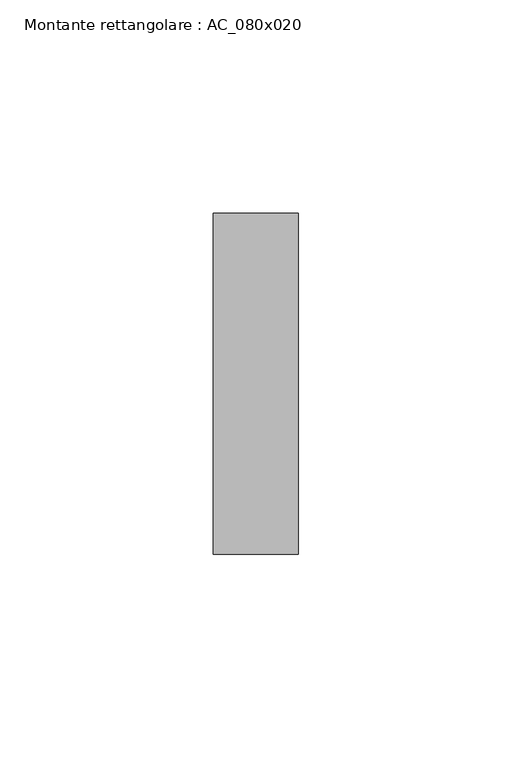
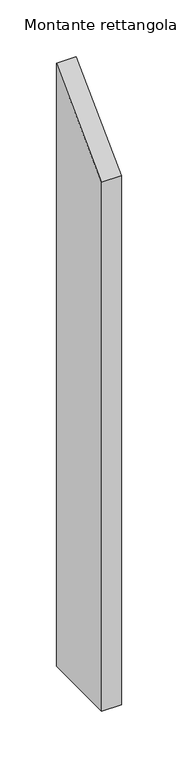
"""IFC4 building model written with IfcOpenShell, lengths in millimetres: member geometry, Montante rettangolare : AC_080x020."""

from ifc_helpers import new_model, si_unit, frame, origin, place, context, project, spatial, polyline, outline, extrude, source, transform, mapped, element, save


def montante_rettangolare_ac_080x020_015a60fd(model_context):
    return source(origin(), model_context, "Body", "SweptSolid", [
        extrude(outline(polyline([(-40.0, -40.0), (40.0, 40.0), (40.0, -610.0), (-40.0, -610.0), (-40.0, -40.0)])), frame((-20.0, 0.0, 0.0), z_axis=(1.0, 0.0, 0.0), x_axis=(0.0, 1.0, 0.0)), (0.0, 0.0, 1.0), 20.0),
    ])


if __name__ == "__main__":
    model = new_model("IFC4")
    model_context = context("Model", 3, world=origin())
    ifc_project = project(units=[si_unit("LENGTHUNIT", "METRE", prefix="MILLI")], contexts=[model_context])
    site = spatial("IfcSite", under=ifc_project)
    building = spatial("IfcBuilding", under=site)
    placement = place(None, origin())
    montante_rettangolare_ac_080x020_shape = montante_rettangolare_ac_080x020_015a60fd(model_context)
    element("IfcMember", 1, ObjectType="Montante rettangolare : AC_080x020", at=placement, inside=building, context=model_context, shape_type="MappedRepresentation", body=[
        mapped(montante_rettangolare_ac_080x020_shape, transform((0.0, 0.0, 0.0), x_axis=(1.0, 0.0, 0.0), y_axis=(0.0, 1.0, 0.0), z_axis=(0.0, 0.0, 1.0))),
    ])
    save(model, "model.ifc")
